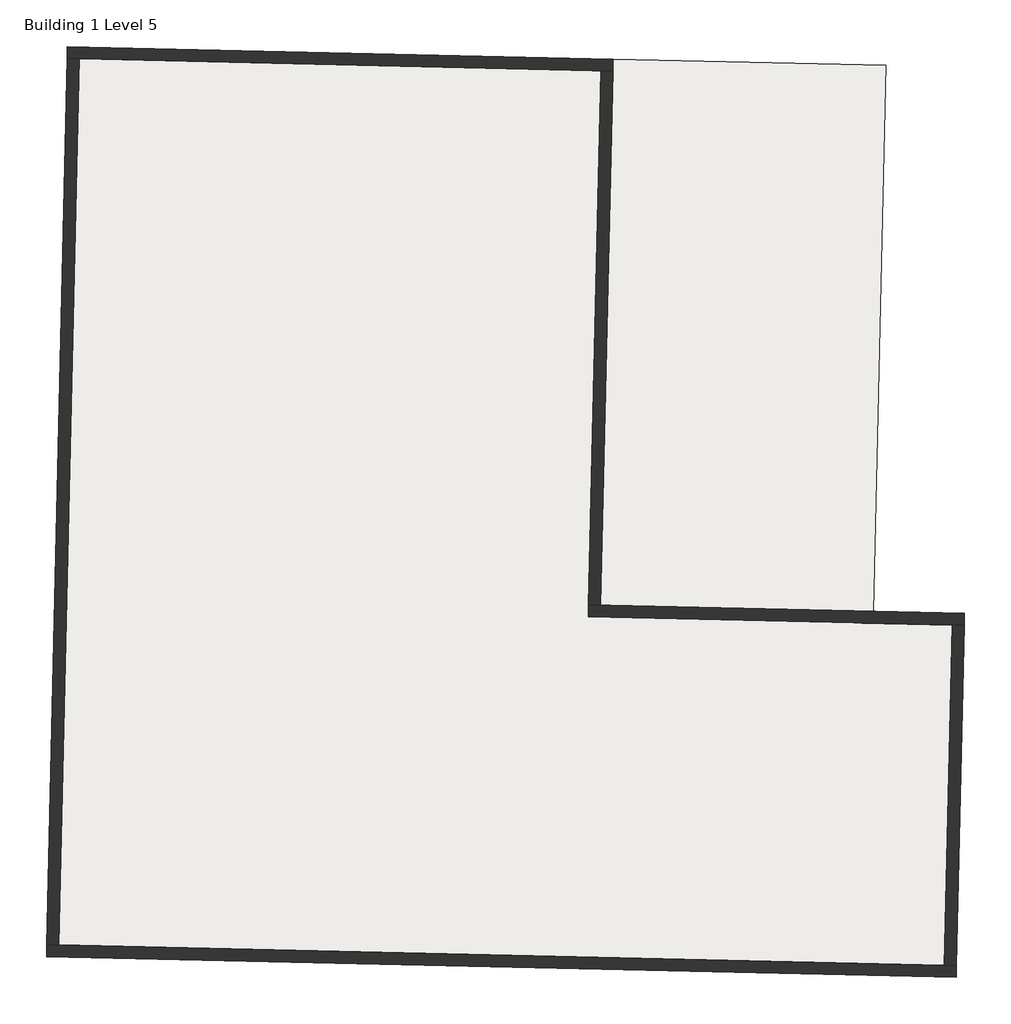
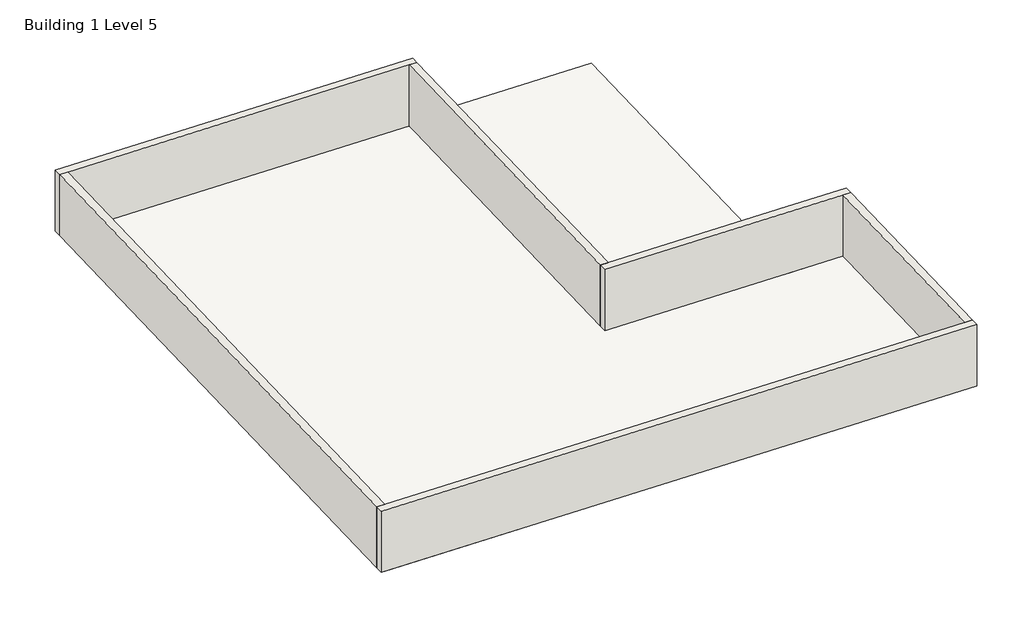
# One storey: 6 walls, 1 roof, 1 slab.
"""IFC4 building model written with IfcOpenShell, lengths in millimetres."""

from ifc_helpers import new_model, si_unit, frame, origin, place, context, project, spatial, polyline, outline, extrude, faceted_brep, element, save

model = new_model("IFC4")

# Units and contexts
model_context = context("Model", 3, world=origin())
ifc_project = project(units=[si_unit("LENGTHUNIT", "METRE", prefix="MILLI")], contexts=[model_context])

# Site, building, storey
site = spatial("IfcSite", under=ifc_project)
building = spatial("IfcBuilding", under=site)
storey = spatial("IfcBuildingStorey", under=building, Name="Building 1 Level 5", Elevation=15849.6)

# Roof
placement = place(None, origin())
element("IfcRoof", 1, ObjectType="Generic - 12\"", at=placement, inside=storey, context=model_context, shape_type="Brep", body=[
    faceted_brep([(7151.8654855, 2599.9760262, 15544.8), (-1989.7187445, 2810.1514262, 15544.8), (-1578.5619786, 20693.4255695, 15544.8), (-1569.3679545, 21093.3198862, 15544.8), (7572.2162855, 20883.1444962, 15544.8), (7563.022261, 20483.2501727, 15544.8), (-1989.7187445, 2810.1514262, 15849.6), (7151.8654855, 2599.9760262, 15849.6), (7572.2162855, 20883.1444962, 15849.6), (-1569.3679545, 21093.3198862, 15849.6), (-1578.5619786, 20693.4255695, 15849.6)], [[[0, 1, 2, 3, 4, 5]], [[6, 7, 8, 9, 10]], [[7, 6, 1, 0]], [[8, 7, 0, 5, 4]], [[9, 8, 4, 3]], [[6, 10, 9, 3, 2, 1]]]),
])

# Slab
element("IfcSlab", 2, ObjectType="Generic - 12\"", at=placement, inside=storey, context=model_context, shape_type="SweptSolid", body=[
    extrude(outline(polyline([(-1578.5619786, 20693.4255695), (-1989.7187445, 2810.1514262), (6751.9711621, 2609.1700507), (6742.7771376, 2209.2757277), (9789.9718878, 2139.2172577), (9528.1260764, -9249.7730661), (-20144.0327268, -8567.5764647), (-19461.8361253, 21104.5823384), (-1578.5619786, 20693.4255695)])), frame((0.0, 0.0, 15544.8), z_axis=(0.0, 0.0, 1.0), x_axis=(1.0, 0.0, 0.0)), (0.0, 0.0, 1.0), 304.8),
])

# Walls
element("IfcWall", 3, ObjectType="Exterior - 0.4m - Building 1", at=placement, inside=storey, context=model_context, shape_type="Brep", body=[
    faceted_brep([(-20553.1210745, -8958.2767638, 15849.6), (9918.8263755, -9658.8614138, 15849.6), (9918.8263755, -9658.8614138, 19202.4), (-2269.9526045, -9378.6275538, 19202.4), (-20553.1210745, -8958.2767638, 19202.4), (9928.0203998, -9258.9670904, 15849.6), (9528.1260764, -9249.7730661, 15849.6), (-20144.0327268, -8567.5764647, 15849.6), (-20543.9270502, -8558.3824404, 15849.6), (-20543.9270502, -8558.3824404, 19202.4), (-20144.0327268, -8567.5764647, 19202.4), (9528.1260764, -9249.7730661, 19202.4), (9928.0203998, -9258.9670904, 19202.4)], [[[0, 1, 2, 3, 4]], [[5, 6, 7, 8, 9, 10, 11, 12]], [[1, 0, 8, 7, 6, 5]], [[1, 5, 12, 2]], [[8, 0, 4, 9]], [[3, 2, 12, 11, 10, 9, 4]]]),
])
element("IfcWall", 4, ObjectType="Exterior - 0.4m - Building 1", at=placement, inside=storey, context=model_context, shape_type="Brep", body=[
    faceted_brep([(-1569.3679545, 21093.3198862, 15849.6), (-19852.5364245, 21513.6706862, 15849.6), (-19852.5364245, 21513.6706862, 19202.4), (-1569.3679545, 21093.3198862, 19202.4), (-19861.7304488, 21113.7763627, 15849.6), (-19461.8361253, 21104.5823382, 15849.6), (-1978.4563022, 20702.6195872, 15849.6), (-1578.5619788, 20693.4255627, 15849.6), (-1578.5619788, 20693.4255627, 19202.4), (-1978.4563022, 20702.6195872, 19202.4), (-19461.8361253, 21104.5823382, 19202.4), (-19861.7304488, 21113.7763627, 19202.4)], [[[0, 1, 2, 3]], [[4, 5, 6, 7, 8, 9, 10, 11]], [[1, 0, 7, 6, 5, 4]], [[7, 0, 3, 8]], [[1, 4, 11, 2]], [[3, 2, 11, 10, 9, 8]]]),
])
element("IfcWall", 5, ObjectType="Exterior - 0.4m - Building 1", at=placement, inside=storey, context=model_context, shape_type="SweptSolid", body=[
    extrude(outline(polyline([(-20543.9270502, -8558.3824404), (-19861.7304488, 21113.7763627), (-19461.8361253, 21104.5823382), (-20144.0327268, -8567.5764647), (-20543.9270502, -8558.3824404)])), frame((0.0, 0.0, 15849.6), z_axis=(0.0, 0.0, 1.0), x_axis=(1.0, 0.0, 0.0)), (0.0, 0.0, 1.0), 3352.8),
])
element("IfcWall", 6, ObjectType="Exterior - 0.4m - Building 1", at=placement, inside=storey, context=model_context, shape_type="Brep", body=[
    faceted_brep([(10199.0602355, 2529.9175562, 15849.6), (-1989.7187445, 2810.1514262, 15849.6), (-2389.6130679, 2819.3454508, 15849.6), (-2389.6130679, 2819.3454508, 19202.4), (-1989.7187445, 2810.1514262, 19202.4), (7151.8654854, 2599.9760238, 19202.4), (10199.0602355, 2529.9175562, 19202.4), (-2398.8070922, 2419.4511273, 15849.6), (9789.9718878, 2139.2172573, 15849.6), (10189.8662112, 2130.0232327, 15849.6), (10189.8662112, 2130.0232327, 19202.4), (9789.9718878, 2139.2172573, 19202.4), (-2398.8070922, 2419.4511273, 19202.4)], [[[0, 1, 2, 3, 4, 5, 6]], [[7, 8, 9, 10, 11, 12]], [[2, 1, 0, 9, 8, 7]], [[2, 7, 12, 3]], [[9, 0, 6, 10]], [[4, 3, 12, 11, 10, 6, 5]]]),
])
element("IfcWall", 7, ObjectType="Exterior - 0.4m - Building 1", at=placement, inside=storey, context=model_context, shape_type="SweptSolid", body=[
    extrude(outline(polyline([(10189.8662112, 2130.0232327), (9928.0203998, -9258.9670904), (9528.1260764, -9249.7730661), (9789.9718878, 2139.2172573), (10189.8662112, 2130.0232327)])), frame((0.0, 0.0, 15849.6), z_axis=(0.0, 0.0, 1.0), x_axis=(1.0, 0.0, 0.0)), (0.0, 0.0, 1.0), 3352.8),
])
element("IfcWall", 8, ObjectType="Exterior - 0.4m - Building 1", at=placement, inside=storey, context=model_context, shape_type="SweptSolid", body=[
    extrude(outline(polyline([(-1578.5619788, 20693.4255627), (-1989.7187445, 2810.1514262), (-2389.6130679, 2819.3454508), (-1978.4563022, 20702.6195872), (-1578.5619788, 20693.4255627)])), frame((0.0, 0.0, 15849.6), z_axis=(0.0, 0.0, 1.0), x_axis=(1.0, 0.0, 0.0)), (0.0, 0.0, 1.0), 3352.8),
])

save(model, "model.ifc")
